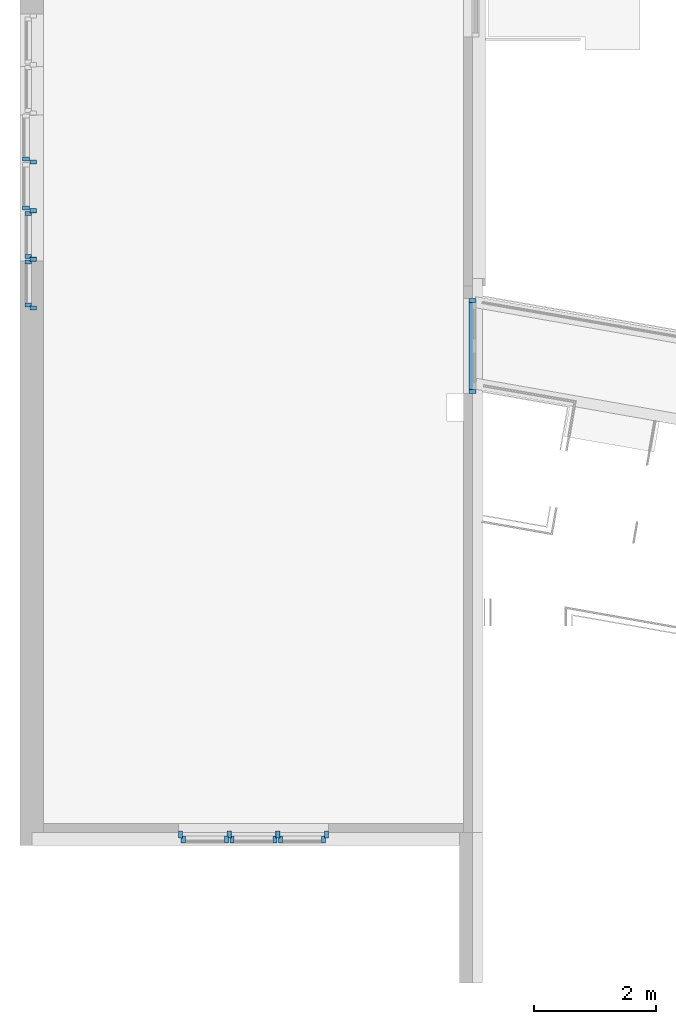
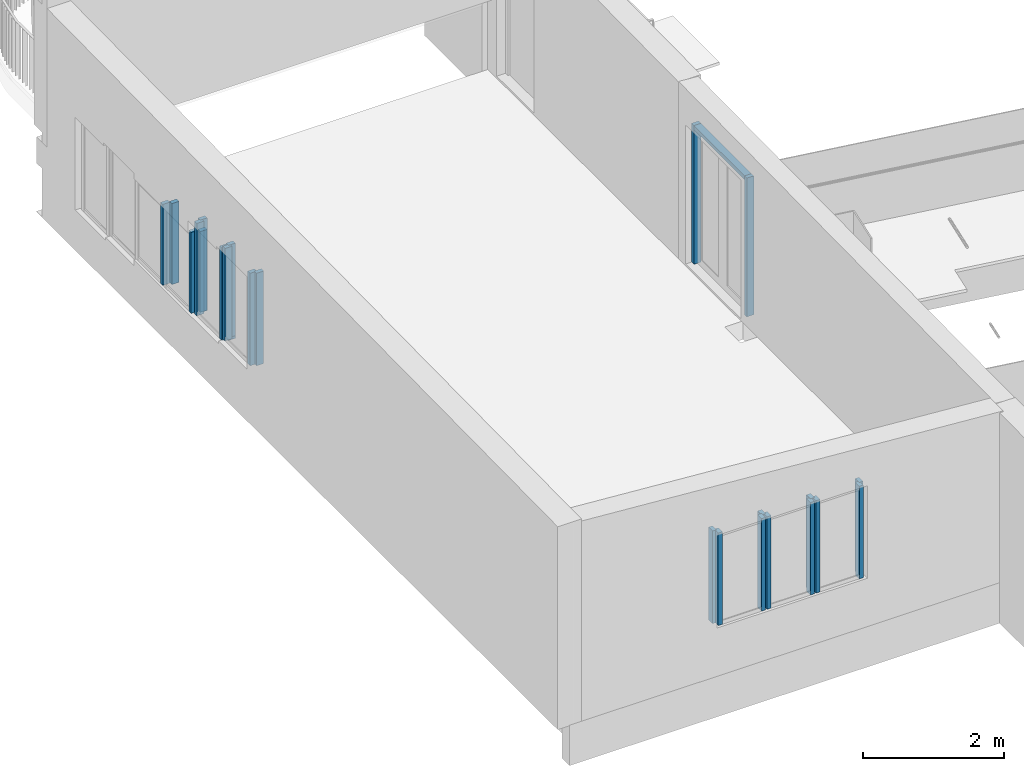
# One storey, part 1 of 10: 28 members, 15 elements without a shape of their own.
"""IFC2X3 building model written with IfcOpenShell, lengths in millimetres."""

from ifc_helpers import new_model, entity, si_unit, converted_unit, derived_unit, direction, frame, frame_2d, origin, origin_2d_with_axis, place, context, subcontext, project, spatial, polyline, rectangle, outline, extrude, source, transform, mapped, material, type_object, type_shapes, element, aggregate, save


model = new_model("IFC2X3")

# Units and contexts
model_context = context("Model", 3, precision=0.01, world=origin(), true_north=direction((6.12303176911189e-17, 1.0)))
body_context = subcontext(model_context, "Body", "Model", "MODEL_VIEW")
ifc_project = project(units=[si_unit("LENGTHUNIT", "METRE", prefix="MILLI"), si_unit("AREAUNIT", "SQUARE_METRE"), si_unit("VOLUMEUNIT", "CUBIC_METRE"), converted_unit("PLANEANGLEUNIT", "DEGREE", entity("IfcRatioMeasure", 0.0174532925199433), si_unit("PLANEANGLEUNIT", "RADIAN"), dimensions=[0, 0, 0, 0, 0, 0, 0]), si_unit("MASSUNIT", "GRAM", prefix="KILO"), derived_unit("MASSDENSITYUNIT", [(si_unit("MASSUNIT", "GRAM", prefix="KILO"), 1), (si_unit("LENGTHUNIT", "METRE"), -3)]), derived_unit("MOMENTOFINERTIAUNIT", [(si_unit("LENGTHUNIT", "METRE"), 4)]), si_unit("TIMEUNIT", "SECOND"), si_unit("FREQUENCYUNIT", "HERTZ"), si_unit("THERMODYNAMICTEMPERATUREUNIT", "DEGREE_CELSIUS"), derived_unit("THERMALTRANSMITTANCEUNIT", [(si_unit("MASSUNIT", "GRAM", prefix="KILO"), 1), (si_unit("THERMODYNAMICTEMPERATUREUNIT", "KELVIN"), -1), (si_unit("TIMEUNIT", "SECOND"), -3)]), derived_unit("VOLUMETRICFLOWRATEUNIT", [(si_unit("LENGTHUNIT", "METRE"), 3), (si_unit("TIMEUNIT", "SECOND"), -1)]), si_unit("ELECTRICCURRENTUNIT", "AMPERE"), si_unit("ELECTRICVOLTAGEUNIT", "VOLT"), si_unit("POWERUNIT", "WATT"), si_unit("FORCEUNIT", "NEWTON", prefix="KILO"), si_unit("ILLUMINANCEUNIT", "LUX"), si_unit("LUMINOUSFLUXUNIT", "LUMEN"), si_unit("LUMINOUSINTENSITYUNIT", "CANDELA"), derived_unit("USERDEFINED", [(si_unit("MASSUNIT", "GRAM", prefix="KILO"), -1), (si_unit("LENGTHUNIT", "METRE"), -2), (si_unit("TIMEUNIT", "SECOND"), 3), (si_unit("LUMINOUSFLUXUNIT", "LUMEN"), 1)]), derived_unit("LINEARVELOCITYUNIT", [(si_unit("LENGTHUNIT", "METRE"), 1), (si_unit("TIMEUNIT", "SECOND"), -1)]), si_unit("PRESSUREUNIT", "PASCAL"), derived_unit("USERDEFINED", [(si_unit("LENGTHUNIT", "METRE"), -2), (si_unit("MASSUNIT", "GRAM", prefix="KILO"), 1), (si_unit("TIMEUNIT", "SECOND"), -2)]), derived_unit("LINEARFORCEUNIT", [(si_unit("MASSUNIT", "GRAM", prefix="KILO"), 1), (si_unit("LENGTHUNIT", "METRE"), 1), (si_unit("TIMEUNIT", "SECOND"), -2), (si_unit("LENGTHUNIT", "METRE"), -1)]), derived_unit("PLANARFORCEUNIT", [(si_unit("MASSUNIT", "GRAM", prefix="KILO"), 1), (si_unit("LENGTHUNIT", "METRE"), 1), (si_unit("TIMEUNIT", "SECOND"), -2), (si_unit("LENGTHUNIT", "METRE"), -2)])], contexts=[model_context])

# Site, building, storey
site_placement = place(None, origin())
site = spatial("IfcSite", under=ifc_project, at=site_placement, Name="<Kadaster Gemeente>;<Kadaster nummer>;<Kadaster sectie>", CompositionType="ELEMENT")
building_placement = place(site_placement, origin())
building = spatial("IfcBuilding", under=site, at=building_placement, Name="JRCZ Middelburg", CompositionType="ELEMENT")
storey_placement = place(building_placement, frame((0.0, 0.0, 3700.0)))
storey = spatial("IfcBuildingStorey", under=building, at=storey_placement, Name="02 tweede verdieping", CompositionType="ELEMENT", Elevation=3700.0)

# Curtain wall, members
curtain_wall_type_1 = type_object("IfcCurtainWallType", Name="Curtain Wall:NLRS_32_CW_Ontwerpkozijn 067x114 binnen", PredefinedType="NOTDEFINED")
curtain_wall_1_placement = place(storey_placement, frame((0.0, 0.0, -3700.0)))
curtain_wall_1 = element("IfcCurtainWall", 1, at=curtain_wall_1_placement, inside=storey, type_object=curtain_wall_type_1, Name="Curtain Wall:NLRS_32_CW_Ontwerpkozijn 067x114 binnen", ObjectType="Curtain Wall:NLRS_32_CW_Ontwerpkozijn 067x114 binnen")
ifc_material_1 = material(Name="RBM_i2_binnenkozijn")
member_type_1 = type_object("IfcMemberType", Name="Rectangular Mullion:32_CWM_067x114", PredefinedType="MULLION", material=ifc_material_1)
shared_shape_1 = source(origin(), body_context, "Body", "SweptSolid", [
    extrude(rectangle(XDim=113.999999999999, YDim=67.0, at=origin_2d_with_axis()), frame((-33.5, 0.0, -2400.0), z_axis=(0.0, 0.0, 1.0), x_axis=(0.0, -1.0, 0.0)), (0.0, 0.0, 1.0), 2400.0),
])
type_shapes(member_type_1, [shared_shape_1])
member_1_placement = place(storey_placement, frame((17203.0, 17215.0893841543, 0.0), z_axis=(0.0, 0.0, -1.0), x_axis=(0.0, -1.0, 0.0)))
member_1 = element("IfcMember", 2, at=member_1_placement, type_object=member_type_1, material=ifc_material_1, Name="Rectangular Mullion:32_CWM_067x114", ObjectType="Rectangular Mullion:32_CWM_067x114", context=body_context, shape_type="MappedRepresentation", body=[
    mapped(shared_shape_1, transform((0.0, 0.0, 0.0), scale=1.0)),
])
member_type_2 = type_object("IfcMemberType", Name="Rectangular Mullion:32_CWM_067x114", PredefinedType="MULLION", material=ifc_material_1)
shared_shape_2 = source(origin(), body_context, "Body", "SweptSolid", [
    extrude(rectangle(XDim=113.999999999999, YDim=67.0, at=origin_2d_with_axis()), frame((-33.5, 0.0, -2400.0), z_axis=(0.0, 0.0, 1.0), x_axis=(0.0, -1.0, 0.0)), (0.0, 0.0, 1.0), 2400.0),
])
type_shapes(member_type_2, [shared_shape_2])
member_2_placement = place(storey_placement, frame((17203.0, 18782.0893841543, 2400.0), z_axis=(0.0, 0.0, 1.0), x_axis=(0.0, 1.0, 0.0)))
member_2 = element("IfcMember", 3, at=member_2_placement, type_object=member_type_2, material=ifc_material_1, Name="Rectangular Mullion:32_CWM_067x114", ObjectType="Rectangular Mullion:32_CWM_067x114", context=body_context, shape_type="MappedRepresentation", body=[
    mapped(shared_shape_2, transform((0.0, 0.0, 0.0), scale=1.0)),
])
member_type_3 = type_object("IfcMemberType", Name="Rectangular Mullion:32_CWM_067x114", PredefinedType="MULLION", material=ifc_material_1)
shared_shape_3 = source(origin(), body_context, "Body", "SweptSolid", [
    extrude(rectangle(XDim=113.999999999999, YDim=67.0, at=origin_2d_with_axis()), frame((-33.5, 0.0, -1433.0), z_axis=(0.0, 0.0, 1.0), x_axis=(0.0, -1.0, 0.0)), (0.0, 0.0, 1.0), 1433.0),
])
type_shapes(member_type_3, [shared_shape_3])
member_3_placement = place(storey_placement, frame((17203.0, 17282.0893841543, 2400.0), z_axis=(0.0, -1.0, 0.0), x_axis=(0.0, 0.0, 1.0)))
member_3 = element("IfcMember", 4, at=member_3_placement, type_object=member_type_3, material=ifc_material_1, Name="Rectangular Mullion:32_CWM_067x114", ObjectType="Rectangular Mullion:32_CWM_067x114", context=body_context, shape_type="MappedRepresentation", body=[
    mapped(shared_shape_3, transform((0.0, 0.0, 0.0), scale=1.0)),
])
aggregate(curtain_wall_1, [member_1, member_2, member_3])

# Curtain wall, member
curtain_wall_type_2 = type_object("IfcCurtainWallType", PredefinedType="NOTDEFINED")
curtain_wall_2_placement = place(storey_placement, frame((0.0, 0.0, -3700.0)))
curtain_wall_2 = element("IfcCurtainWall", 5, at=curtain_wall_2_placement, inside=storey, type_object=curtain_wall_type_2)
member_type_4 = type_object("IfcMemberType", Name="Rectangular Mullion:32_CWM_067x114", PredefinedType="MULLION", material=ifc_material_1)
shared_shape_4 = source(origin(), body_context, "Body", "SweptSolid", [
    extrude(rectangle(XDim=67.0000000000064, YDim=114.0, at=frame_2d((0.0, 1.08002495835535e-12), x_axis=(1.0, 0.0))), frame((9980.0, 21024.8639489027, 4500.0), z_axis=(0.0, 0.0, 1.0), x_axis=(0.0, -1.0, 0.0)), (0.0, 0.0, 1.0), 1400.0),
])
type_shapes(member_type_4, [shared_shape_4])
member_4_placement = place(storey_placement, frame((0.0, 0.0, -3700.0)))
member_4 = element("IfcMember", 6, at=member_4_placement, type_object=member_type_4, material=ifc_material_1, Name="Rectangular Mullion:32_CWM_067x114", ObjectType="Rectangular Mullion:32_CWM_067x114", context=body_context, shape_type="MappedRepresentation", body=[
    mapped(shared_shape_4, transform((0.0, 0.0, 0.0), scale=1.0)),
])
aggregate(curtain_wall_2, [member_4])

curtain_wall_type_3 = type_object("IfcCurtainWallType", Name="Curtain Wall:NLRS_31_CW_Ontwerpkozijn 067x114 2", PredefinedType="NOTDEFINED")
curtain_wall_3_placement = place(storey_placement, frame((0.0, 0.0, -3700.0)))
curtain_wall_3 = element("IfcCurtainWall", 7, at=curtain_wall_3_placement, inside=storey, type_object=curtain_wall_type_3, Name="Curtain Wall:NLRS_31_CW_Ontwerpkozijn 067x114 2", ObjectType="Curtain Wall:NLRS_31_CW_Ontwerpkozijn 067x114 2")
ifc_material_2 = material(Name="RBM_a_kozijn")
member_type_5 = type_object("IfcMemberType", Name="Rectangular Mullion:31_CWM_067x114", PredefinedType="MULLION", material=ifc_material_2)
shared_shape_5 = source(origin(), body_context, "Body", "SweptSolid", [
    extrude(rectangle(XDim=67.0000000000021, YDim=114.0, at=frame_2d((2.16360263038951e-12, -1.08002495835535e-12), x_axis=(1.0, 0.0))), frame((9858.0, 21068.8639489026, 4500.0), z_axis=(0.0, 0.0, 1.0), x_axis=(0.0, -1.0, 0.0)), (0.0, 0.0, 1.0), 1400.0),
])
type_shapes(member_type_5, [shared_shape_5])
member_5_placement = place(storey_placement, frame((0.0, 0.0, -3700.0)))
member_5 = element("IfcMember", 8, at=member_5_placement, type_object=member_type_5, material=ifc_material_2, Name="Rectangular Mullion:31_CWM_067x114", ObjectType="Rectangular Mullion:31_CWM_067x114", context=body_context, shape_type="MappedRepresentation", body=[
    mapped(shared_shape_5, transform((0.0, 0.0, 0.0), scale=1.0)),
])
aggregate(curtain_wall_3, [member_5])

# Curtain wall, members
curtain_wall_4_placement = place(storey_placement, frame((0.0, 0.0, -3700.0)))
curtain_wall_4 = element("IfcCurtainWall", 9, at=curtain_wall_4_placement, inside=storey, type_object=curtain_wall_type_2)
member_type_6 = type_object("IfcMemberType", Name="Rectangular Mullion:32_CWM_067x114", PredefinedType="MULLION", material=ifc_material_1)
shared_shape_6 = source(origin(), body_context, "Body", "SweptSolid", [
    extrude(rectangle(XDim=67.0000000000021, YDim=114.0, at=frame_2d((0.0, 1.08002495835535e-12), x_axis=(1.0, 0.0))), frame((9980.0, 21020.8639489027, 4500.0), z_axis=(0.0, 0.0, 1.0), x_axis=(0.0, -1.0, 0.0)), (0.0, 0.0, 1.0), 1400.0),
])
type_shapes(member_type_6, [shared_shape_6])
member_6_placement = place(storey_placement, frame((0.0, 0.0, -3700.0)))
member_6 = element("IfcMember", 10, at=member_6_placement, type_object=member_type_6, material=ifc_material_1, Name="Rectangular Mullion:32_CWM_067x114", ObjectType="Rectangular Mullion:32_CWM_067x114", context=body_context, shape_type="MappedRepresentation", body=[
    mapped(shared_shape_6, transform((0.0, 0.0, 0.0), scale=1.0)),
])
member_type_7 = type_object("IfcMemberType", Name="Rectangular Mullion:32_CWM_067x114", PredefinedType="MULLION", material=ifc_material_1)
shared_shape_7 = source(origin(), body_context, "Body", "SweptSolid", [
    extrude(rectangle(XDim=67.0000000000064, YDim=114.0, at=frame_2d((0.0, 1.08002495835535e-12), x_axis=(1.0, 0.0))), frame((9980.0, 20224.8639489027, 4500.0), z_axis=(0.0, 0.0, 1.0), x_axis=(0.0, -1.0, 0.0)), (0.0, 0.0, 1.0), 1400.0),
])
type_shapes(member_type_7, [shared_shape_7])
member_7_placement = place(storey_placement, frame((0.0, 0.0, -3700.0)))
member_7 = element("IfcMember", 11, at=member_7_placement, type_object=member_type_7, material=ifc_material_1, Name="Rectangular Mullion:32_CWM_067x114", ObjectType="Rectangular Mullion:32_CWM_067x114", context=body_context, shape_type="MappedRepresentation", body=[
    mapped(shared_shape_7, transform((0.0, 0.0, 0.0), scale=1.0)),
])
aggregate(curtain_wall_4, [member_6, member_7])

# Curtain wall, member
curtain_wall_5_placement = place(storey_placement, frame((0.0, 0.0, -3700.0)))
curtain_wall_5 = element("IfcCurtainWall", 12, at=curtain_wall_5_placement, inside=storey, type_object=curtain_wall_type_3, Name="Curtain Wall:NLRS_31_CW_Ontwerpkozijn 067x114 2", ObjectType="Curtain Wall:NLRS_31_CW_Ontwerpkozijn 067x114 2")
member_type_8 = type_object("IfcMemberType", Name="Rectangular Mullion:31_CWM_067x114", PredefinedType="MULLION", material=ifc_material_2)
shared_shape_8 = source(origin(), body_context, "Body", "SweptSolid", [
    extrude(rectangle(XDim=67.0000000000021, YDim=114.0, at=frame_2d((2.16360263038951e-12, -1.08002495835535e-12), x_axis=(1.0, 0.0))), frame((9858.0, 20268.8639489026, 4500.0), z_axis=(0.0, 0.0, 1.0), x_axis=(0.0, -1.0, 0.0)), (0.0, 0.0, 1.0), 1400.0),
])
type_shapes(member_type_8, [shared_shape_8])
member_8_placement = place(storey_placement, frame((0.0, 0.0, -3700.0)))
member_8 = element("IfcMember", 13, at=member_8_placement, type_object=member_type_8, material=ifc_material_2, Name="Rectangular Mullion:31_CWM_067x114", ObjectType="Rectangular Mullion:31_CWM_067x114", context=body_context, shape_type="MappedRepresentation", body=[
    mapped(shared_shape_8, transform((0.0, 0.0, 0.0), scale=1.0)),
])
aggregate(curtain_wall_5, [member_8])

# Curtain wall, members
curtain_wall_6_placement = place(storey_placement, frame((0.0, 0.0, -3700.0)))
curtain_wall_6 = element("IfcCurtainWall", 14, at=curtain_wall_6_placement, inside=storey, type_object=curtain_wall_type_2)
member_type_9 = type_object("IfcMemberType", Name="Rectangular Mullion:32_CWM_067x114", PredefinedType="MULLION", material=ifc_material_1)
shared_shape_9 = source(origin(), body_context, "Body", "SweptSolid", [
    extrude(rectangle(XDim=67.0000000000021, YDim=114.0, at=origin_2d_with_axis()), frame((9980.0, 20220.8639489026, 4500.0), z_axis=(0.0, 0.0, 1.0), x_axis=(0.0, -1.0, 0.0)), (0.0, 0.0, 1.0), 1600.0),
])
type_shapes(member_type_9, [shared_shape_9])
member_9_placement = place(storey_placement, frame((0.0, 0.0, -3700.0)))
member_9 = element("IfcMember", 15, at=member_9_placement, type_object=member_type_9, material=ifc_material_1, Name="Rectangular Mullion:32_CWM_067x114", ObjectType="Rectangular Mullion:32_CWM_067x114", context=body_context, shape_type="MappedRepresentation", body=[
    mapped(shared_shape_9, transform((0.0, 0.0, 0.0), scale=1.0)),
])
member_type_10 = type_object("IfcMemberType", Name="Rectangular Mullion:32_CWM_067x114", PredefinedType="MULLION", material=ifc_material_1)
shared_shape_10 = source(origin(), body_context, "Body", "SweptSolid", [
    extrude(rectangle(XDim=67.0000000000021, YDim=114.0, at=frame_2d((-1.08357767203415e-12, 0.0), x_axis=(1.0, 0.0))), frame((9980.0, 19424.8639489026, 4500.0), z_axis=(0.0, 0.0, 1.0), x_axis=(0.0, -1.0, 0.0)), (0.0, 0.0, 1.0), 1600.0),
])
type_shapes(member_type_10, [shared_shape_10])
member_10_placement = place(storey_placement, frame((0.0, 0.0, -3700.0)))
member_10 = element("IfcMember", 16, at=member_10_placement, type_object=member_type_10, material=ifc_material_1, Name="Rectangular Mullion:32_CWM_067x114", ObjectType="Rectangular Mullion:32_CWM_067x114", context=body_context, shape_type="MappedRepresentation", body=[
    mapped(shared_shape_10, transform((0.0, 0.0, 0.0), scale=1.0)),
])
aggregate(curtain_wall_6, [member_9, member_10])

curtain_wall_7_placement = place(storey_placement, frame((0.0, 0.0, -3700.0)))
curtain_wall_7 = element("IfcCurtainWall", 17, at=curtain_wall_7_placement, inside=storey, type_object=curtain_wall_type_3, Name="Curtain Wall:NLRS_31_CW_Ontwerpkozijn 067x114 2", ObjectType="Curtain Wall:NLRS_31_CW_Ontwerpkozijn 067x114 2")
member_type_11 = type_object("IfcMemberType", Name="Rectangular Mullion:31_CWM_067x114", PredefinedType="MULLION", material=ifc_material_2)
shared_shape_11 = source(origin(), body_context, "Body", "SweptSolid", [
    extrude(outline(polyline([(-37.0, -65.3333333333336), (30.0, -65.3333333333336), (30.0, 16.666666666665), (7.0, 16.666666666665), (7.0, 48.6666666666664), (-37.0, 48.6666666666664), (-37.0, -65.3333333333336)])), frame((9906.33333333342, 19465.3639489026, 4500.0), z_axis=(0.0, 0.0, 1.0), x_axis=(0.0, -1.0, 0.0)), (0.0, 0.0, 1.0), 1600.0),
])
type_shapes(member_type_11, [shared_shape_11])
member_11_placement = place(storey_placement, frame((0.0, 0.0, -3700.0)))
member_11 = element("IfcMember", 18, at=member_11_placement, type_object=member_type_11, material=ifc_material_2, Name="Rectangular Mullion:31_CWM_067x114", ObjectType="Rectangular Mullion:31_CWM_067x114", context=body_context, shape_type="MappedRepresentation", body=[
    mapped(shared_shape_11, transform((0.0, 0.0, 0.0), scale=1.0)),
])
member_type_12 = type_object("IfcMemberType", Name="Rectangular Mullion:31_CWM_067x114", PredefinedType="MULLION", material=ifc_material_2)
shared_shape_12 = source(origin(), body_context, "Body", "SweptSolid", [
    extrude(outline(polyline([(-30.0, -65.3333333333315), (37.0, -65.3333333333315), (37.0, 48.6666666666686), (-7.0, 48.6666666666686), (-7.0, 16.6666666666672), (-30.0, 16.6666666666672), (-30.0, -65.3333333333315)])), frame((9906.33333333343, 20180.3639489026, 4500.0), z_axis=(0.0, 0.0, 1.0), x_axis=(0.0, -1.0, 0.0)), (0.0, 0.0, 1.0), 1600.0),
])
type_shapes(member_type_12, [shared_shape_12])
member_12_placement = place(storey_placement, frame((0.0, 0.0, -3700.0)))
member_12 = element("IfcMember", 19, at=member_12_placement, type_object=member_type_12, material=ifc_material_2, Name="Rectangular Mullion:31_CWM_067x114", ObjectType="Rectangular Mullion:31_CWM_067x114", context=body_context, shape_type="MappedRepresentation", body=[
    mapped(shared_shape_12, transform((0.0, 0.0, 0.0), scale=1.0)),
])
aggregate(curtain_wall_7, [member_11, member_12])

curtain_wall_8_placement = place(storey_placement, frame((0.0, 0.0, -3700.0)))
curtain_wall_8 = element("IfcCurtainWall", 20, at=curtain_wall_8_placement, inside=storey, type_object=curtain_wall_type_2)
member_type_13 = type_object("IfcMemberType", Name="Rectangular Mullion:32_CWM_067x114", PredefinedType="MULLION", material=ifc_material_1)
shared_shape_13 = source(origin(), body_context, "Body", "SweptSolid", [
    extrude(rectangle(XDim=66.9999999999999, YDim=114.0, at=frame_2d((-1.08002495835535e-12, 0.0), x_axis=(1.0, 0.0))), frame((9980.0, 19420.8639489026, 4550.0), z_axis=(0.0, 0.0, 1.0), x_axis=(0.0, -1.0, 0.0)), (0.0, 0.0, 1.0), 1600.0),
])
type_shapes(member_type_13, [shared_shape_13])
member_13_placement = place(storey_placement, frame((0.0, 0.0, -3700.0)))
member_13 = element("IfcMember", 21, at=member_13_placement, type_object=member_type_13, material=ifc_material_1, Name="Rectangular Mullion:32_CWM_067x114", ObjectType="Rectangular Mullion:32_CWM_067x114", context=body_context, shape_type="MappedRepresentation", body=[
    mapped(shared_shape_13, transform((0.0, 0.0, 0.0), scale=1.0)),
])
member_type_14 = type_object("IfcMemberType", Name="Rectangular Mullion:32_CWM_067x114", PredefinedType="MULLION", material=ifc_material_1)
shared_shape_14 = source(origin(), body_context, "Body", "SweptSolid", [
    extrude(rectangle(XDim=67.0000000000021, YDim=114.0, at=frame_2d((-1.08357767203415e-12, 0.0), x_axis=(1.0, 0.0))), frame((9980.0, 18624.8639489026, 4550.0), z_axis=(0.0, 0.0, 1.0), x_axis=(0.0, -1.0, 0.0)), (0.0, 0.0, 1.0), 1600.0),
])
type_shapes(member_type_14, [shared_shape_14])
member_14_placement = place(storey_placement, frame((0.0, 0.0, -3700.0)))
member_14 = element("IfcMember", 22, at=member_14_placement, type_object=member_type_14, material=ifc_material_1, Name="Rectangular Mullion:32_CWM_067x114", ObjectType="Rectangular Mullion:32_CWM_067x114", context=body_context, shape_type="MappedRepresentation", body=[
    mapped(shared_shape_14, transform((0.0, 0.0, 0.0), scale=1.0)),
])
aggregate(curtain_wall_8, [member_13, member_14])

curtain_wall_9_placement = place(storey_placement, frame((0.0, 0.0, -3700.0)))
curtain_wall_9 = element("IfcCurtainWall", 23, at=curtain_wall_9_placement, inside=storey, type_object=curtain_wall_type_3, Name="Curtain Wall:NLRS_31_CW_Ontwerpkozijn 067x114 2", ObjectType="Curtain Wall:NLRS_31_CW_Ontwerpkozijn 067x114 2")
member_type_15 = type_object("IfcMemberType", Name="Rectangular Mullion:31_CWM_067x114", PredefinedType="MULLION", material=ifc_material_2)
shared_shape_15 = source(origin(), body_context, "Body", "SweptSolid", [
    extrude(outline(polyline([(-37.0, -65.333333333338), (30.0, -65.333333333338), (30.0, 16.666666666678), (7.0, 16.666666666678), (7.0, 48.6666666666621), (-37.0, 48.6666666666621), (-37.0, -65.333333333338)])), frame((9906.33333333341, 18665.3639489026, 4550.0), z_axis=(0.0, 0.0, 1.0), x_axis=(0.0, -1.0, 0.0)), (0.0, 0.0, 1.0), 1600.0),
])
type_shapes(member_type_15, [shared_shape_15])
member_15_placement = place(storey_placement, frame((0.0, 0.0, -3700.0)))
member_15 = element("IfcMember", 24, at=member_15_placement, type_object=member_type_15, material=ifc_material_2, Name="Rectangular Mullion:31_CWM_067x114", ObjectType="Rectangular Mullion:31_CWM_067x114", context=body_context, shape_type="MappedRepresentation", body=[
    mapped(shared_shape_15, transform((0.0, 0.0, 0.0), scale=1.0)),
])
member_type_16 = type_object("IfcMemberType", Name="Rectangular Mullion:31_CWM_067x114", PredefinedType="MULLION", material=ifc_material_2)
shared_shape_16 = source(origin(), body_context, "Body", "SweptSolid", [
    extrude(outline(polyline([(-30.0, -65.333333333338), (37.0, -65.333333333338), (37.0, 48.6666666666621), (-7.0, 48.6666666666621), (-7.0, 16.666666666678), (-30.0, 16.666666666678), (-30.0, -65.333333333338)])), frame((9906.33333333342, 19380.3639489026, 4550.0), z_axis=(0.0, 0.0, 1.0), x_axis=(0.0, -1.0, 0.0)), (0.0, 0.0, 1.0), 1600.0),
])
type_shapes(member_type_16, [shared_shape_16])
member_16_placement = place(storey_placement, frame((0.0, 0.0, -3700.0)))
member_16 = element("IfcMember", 25, at=member_16_placement, type_object=member_type_16, material=ifc_material_2, Name="Rectangular Mullion:31_CWM_067x114", ObjectType="Rectangular Mullion:31_CWM_067x114", context=body_context, shape_type="MappedRepresentation", body=[
    mapped(shared_shape_16, transform((0.0, 0.0, 0.0), scale=1.0)),
])
aggregate(curtain_wall_9, [member_15, member_16])

curtain_wall_10_placement = place(storey_placement, frame((0.0, 0.0, -3700.0)))
curtain_wall_10 = element("IfcCurtainWall", 26, at=curtain_wall_10_placement, inside=storey, type_object=curtain_wall_type_2)
member_type_17 = type_object("IfcMemberType", Name="Rectangular Mullion:32_CWM_067x114", PredefinedType="MULLION", material=ifc_material_1)
shared_shape_17 = source(origin(), body_context, "Body", "SweptSolid", [
    extrude(rectangle(XDim=114.0, YDim=66.9999999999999, at=frame_2d((0.0, 1.08002495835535e-12), x_axis=(1.0, 0.0))), frame((14002.0, 9967.0, 4500.0), z_axis=(0.0, 0.0, 1.0), x_axis=(0.0, -1.0, 0.0)), (0.0, 0.0, 1.0), 1600.0),
])
type_shapes(member_type_17, [shared_shape_17])
member_17_placement = place(storey_placement, frame((0.0, 0.0, -3700.0)))
member_17 = element("IfcMember", 27, at=member_17_placement, type_object=member_type_17, material=ifc_material_1, Name="Rectangular Mullion:32_CWM_067x114", ObjectType="Rectangular Mullion:32_CWM_067x114", context=body_context, shape_type="MappedRepresentation", body=[
    mapped(shared_shape_17, transform((0.0, 0.0, 0.0), scale=1.0)),
])
member_type_18 = type_object("IfcMemberType", Name="Rectangular Mullion:32_CWM_067x114", PredefinedType="MULLION", material=ifc_material_1)
shared_shape_18 = source(origin(), body_context, "Body", "SweptSolid", [
    extrude(rectangle(XDim=114.0, YDim=66.9999999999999, at=frame_2d((0.0, 1.08002495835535e-12), x_axis=(1.0, 0.0))), frame((14798.0, 9967.0, 4500.0), z_axis=(0.0, 0.0, 1.0), x_axis=(0.0, -1.0, 0.0)), (0.0, 0.0, 1.0), 1600.0),
])
type_shapes(member_type_18, [shared_shape_18])
member_18_placement = place(storey_placement, frame((0.0, 0.0, -3700.0)))
member_18 = element("IfcMember", 28, at=member_18_placement, type_object=member_type_18, material=ifc_material_1, Name="Rectangular Mullion:32_CWM_067x114", ObjectType="Rectangular Mullion:32_CWM_067x114", context=body_context, shape_type="MappedRepresentation", body=[
    mapped(shared_shape_18, transform((0.0, 0.0, 0.0), scale=1.0)),
])
aggregate(curtain_wall_10, [member_17, member_18])

curtain_wall_11_placement = place(storey_placement, frame((0.0, 0.0, -3700.0)))
curtain_wall_11 = element("IfcCurtainWall", 29, at=curtain_wall_11_placement, inside=storey, type_object=curtain_wall_type_3, Name="Curtain Wall:NLRS_31_CW_Ontwerpkozijn 067x114 2", ObjectType="Curtain Wall:NLRS_31_CW_Ontwerpkozijn 067x114 2")
member_type_19 = type_object("IfcMemberType", Name="Rectangular Mullion:31_CWM_067x114", PredefinedType="MULLION", material=ifc_material_2)
shared_shape_19 = source(origin(), body_context, "Body", "SweptSolid", [
    extrude(outline(polyline([(-48.6666666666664, -37.0), (65.3333333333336, -37.0), (65.3333333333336, 30.0), (-16.6666666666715, 30.0), (-16.6666666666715, 7.0), (-48.6666666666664, 7.0), (-48.6666666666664, -37.0)])), frame((14757.5000000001, 9893.33333333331, 4500.0), z_axis=(0.0, 0.0, 1.0), x_axis=(0.0, -1.0, 0.0)), (0.0, 0.0, 1.0), 1600.0),
])
type_shapes(member_type_19, [shared_shape_19])
member_19_placement = place(storey_placement, frame((0.0, 0.0, -3700.0)))
member_19 = element("IfcMember", 30, at=member_19_placement, type_object=member_type_19, material=ifc_material_2, Name="Rectangular Mullion:31_CWM_067x114", ObjectType="Rectangular Mullion:31_CWM_067x114", context=body_context, shape_type="MappedRepresentation", body=[
    mapped(shared_shape_19, transform((0.0, 0.0, 0.0), scale=1.0)),
])
member_type_20 = type_object("IfcMemberType", Name="Rectangular Mullion:31_CWM_067x114", PredefinedType="MULLION", material=ifc_material_2)
shared_shape_20 = source(origin(), body_context, "Body", "SweptSolid", [
    extrude(outline(polyline([(-16.6666666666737, -30.0), (65.3333333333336, -30.0), (65.3333333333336, 37.0), (-48.6666666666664, 37.0), (-48.6666666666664, -7.0), (-16.6666666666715, -7.0), (-16.6666666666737, -30.0)])), frame((14042.5000000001, 9893.33333333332, 4500.0), z_axis=(0.0, 0.0, 1.0), x_axis=(0.0, -1.0, 0.0)), (0.0, 0.0, 1.0), 1600.0),
])
type_shapes(member_type_20, [shared_shape_20])
member_20_placement = place(storey_placement, frame((0.0, 0.0, -3700.0)))
member_20 = element("IfcMember", 31, at=member_20_placement, type_object=member_type_20, material=ifc_material_2, Name="Rectangular Mullion:31_CWM_067x114", ObjectType="Rectangular Mullion:31_CWM_067x114", context=body_context, shape_type="MappedRepresentation", body=[
    mapped(shared_shape_20, transform((0.0, 0.0, 0.0), scale=1.0)),
])
aggregate(curtain_wall_11, [member_19, member_20])

curtain_wall_12_placement = place(storey_placement, frame((0.0, 0.0, -3700.0)))
curtain_wall_12 = element("IfcCurtainWall", 32, at=curtain_wall_12_placement, inside=storey, type_object=curtain_wall_type_2)
member_type_21 = type_object("IfcMemberType", Name="Rectangular Mullion:32_CWM_067x114", PredefinedType="MULLION", material=ifc_material_1)
shared_shape_21 = source(origin(), body_context, "Body", "SweptSolid", [
    extrude(rectangle(XDim=114.0, YDim=66.9999999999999, at=frame_2d((0.0, 1.08002495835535e-12), x_axis=(1.0, 0.0))), frame((13202.0, 9967.0, 4500.0), z_axis=(0.0, 0.0, 1.0), x_axis=(0.0, -1.0, 0.0)), (0.0, 0.0, 1.0), 1600.0),
])
type_shapes(member_type_21, [shared_shape_21])
member_21_placement = place(storey_placement, frame((0.0, 0.0, -3700.0)))
member_21 = element("IfcMember", 33, at=member_21_placement, type_object=member_type_21, material=ifc_material_1, Name="Rectangular Mullion:32_CWM_067x114", ObjectType="Rectangular Mullion:32_CWM_067x114", context=body_context, shape_type="MappedRepresentation", body=[
    mapped(shared_shape_21, transform((0.0, 0.0, 0.0), scale=1.0)),
])
member_type_22 = type_object("IfcMemberType", Name="Rectangular Mullion:32_CWM_067x114", PredefinedType="MULLION", material=ifc_material_1)
shared_shape_22 = source(origin(), body_context, "Body", "SweptSolid", [
    extrude(rectangle(XDim=114.0, YDim=66.9999999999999, at=frame_2d((0.0, 1.08002495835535e-12), x_axis=(1.0, 0.0))), frame((13998.0, 9967.0, 4500.0), z_axis=(0.0, 0.0, 1.0), x_axis=(0.0, -1.0, 0.0)), (0.0, 0.0, 1.0), 1600.0),
])
type_shapes(member_type_22, [shared_shape_22])
member_22_placement = place(storey_placement, frame((0.0, 0.0, -3700.0)))
member_22 = element("IfcMember", 34, at=member_22_placement, type_object=member_type_22, material=ifc_material_1, Name="Rectangular Mullion:32_CWM_067x114", ObjectType="Rectangular Mullion:32_CWM_067x114", context=body_context, shape_type="MappedRepresentation", body=[
    mapped(shared_shape_22, transform((0.0, 0.0, 0.0), scale=1.0)),
])
aggregate(curtain_wall_12, [member_21, member_22])

curtain_wall_13_placement = place(storey_placement, frame((0.0, 0.0, -3700.0)))
curtain_wall_13 = element("IfcCurtainWall", 35, at=curtain_wall_13_placement, inside=storey, type_object=curtain_wall_type_3, Name="Curtain Wall:NLRS_31_CW_Ontwerpkozijn 067x114 2", ObjectType="Curtain Wall:NLRS_31_CW_Ontwerpkozijn 067x114 2")
member_type_23 = type_object("IfcMemberType", Name="Rectangular Mullion:31_CWM_067x114", PredefinedType="MULLION", material=ifc_material_2)
shared_shape_23 = source(origin(), body_context, "Body", "SweptSolid", [
    extrude(outline(polyline([(-48.6666666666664, -37.0), (65.3333333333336, -37.0), (65.3333333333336, 30.0), (-16.6666666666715, 30.0), (-16.6666666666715, 7.0), (-48.6666666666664, 7.0), (-48.6666666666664, -37.0)])), frame((13957.5000000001, 9893.33333333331, 4500.0), z_axis=(0.0, 0.0, 1.0), x_axis=(0.0, -1.0, 0.0)), (0.0, 0.0, 1.0), 1600.0),
])
type_shapes(member_type_23, [shared_shape_23])
member_23_placement = place(storey_placement, frame((0.0, 0.0, -3700.0)))
member_23 = element("IfcMember", 36, at=member_23_placement, type_object=member_type_23, material=ifc_material_2, Name="Rectangular Mullion:31_CWM_067x114", ObjectType="Rectangular Mullion:31_CWM_067x114", context=body_context, shape_type="MappedRepresentation", body=[
    mapped(shared_shape_23, transform((0.0, 0.0, 0.0), scale=1.0)),
])
member_type_24 = type_object("IfcMemberType", Name="Rectangular Mullion:31_CWM_067x114", PredefinedType="MULLION", material=ifc_material_2)
shared_shape_24 = source(origin(), body_context, "Body", "SweptSolid", [
    extrude(outline(polyline([(-16.6666666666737, -30.0), (65.3333333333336, -30.0), (65.3333333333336, 37.0), (-48.6666666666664, 37.0), (-48.6666666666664, -7.0), (-16.6666666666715, -7.0), (-16.6666666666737, -30.0)])), frame((13242.5000000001, 9893.33333333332, 4500.0), z_axis=(0.0, 0.0, 1.0), x_axis=(0.0, -1.0, 0.0)), (0.0, 0.0, 1.0), 1600.0),
])
type_shapes(member_type_24, [shared_shape_24])
member_24_placement = place(storey_placement, frame((0.0, 0.0, -3700.0)))
member_24 = element("IfcMember", 37, at=member_24_placement, type_object=member_type_24, material=ifc_material_2, Name="Rectangular Mullion:31_CWM_067x114", ObjectType="Rectangular Mullion:31_CWM_067x114", context=body_context, shape_type="MappedRepresentation", body=[
    mapped(shared_shape_24, transform((0.0, 0.0, 0.0), scale=1.0)),
])
aggregate(curtain_wall_13, [member_23, member_24])

curtain_wall_14_placement = place(storey_placement, frame((0.0, 0.0, -3700.0)))
curtain_wall_14 = element("IfcCurtainWall", 38, at=curtain_wall_14_placement, inside=storey, type_object=curtain_wall_type_2)
member_type_25 = type_object("IfcMemberType", Name="Rectangular Mullion:32_CWM_067x114", PredefinedType="MULLION", material=ifc_material_1)
shared_shape_25 = source(origin(), body_context, "Body", "SweptSolid", [
    extrude(rectangle(XDim=114.0, YDim=66.9999999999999, at=frame_2d((0.0, 1.08002495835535e-12), x_axis=(1.0, 0.0))), frame((12402.0, 9967.0, 4500.0), z_axis=(0.0, 0.0, 1.0), x_axis=(0.0, -1.0, 0.0)), (0.0, 0.0, 1.0), 1600.0),
])
type_shapes(member_type_25, [shared_shape_25])
member_25_placement = place(storey_placement, frame((0.0, 0.0, -3700.0)))
member_25 = element("IfcMember", 39, at=member_25_placement, type_object=member_type_25, material=ifc_material_1, Name="Rectangular Mullion:32_CWM_067x114", ObjectType="Rectangular Mullion:32_CWM_067x114", context=body_context, shape_type="MappedRepresentation", body=[
    mapped(shared_shape_25, transform((0.0, 0.0, 0.0), scale=1.0)),
])
member_type_26 = type_object("IfcMemberType", Name="Rectangular Mullion:32_CWM_067x114", PredefinedType="MULLION", material=ifc_material_1)
shared_shape_26 = source(origin(), body_context, "Body", "SweptSolid", [
    extrude(rectangle(XDim=114.0, YDim=66.9999999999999, at=frame_2d((0.0, 1.08002495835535e-12), x_axis=(1.0, 0.0))), frame((13198.0, 9967.0, 4500.0), z_axis=(0.0, 0.0, 1.0), x_axis=(0.0, -1.0, 0.0)), (0.0, 0.0, 1.0), 1600.0),
])
type_shapes(member_type_26, [shared_shape_26])
member_26_placement = place(storey_placement, frame((0.0, 0.0, -3700.0)))
member_26 = element("IfcMember", 40, at=member_26_placement, type_object=member_type_26, material=ifc_material_1, Name="Rectangular Mullion:32_CWM_067x114", ObjectType="Rectangular Mullion:32_CWM_067x114", context=body_context, shape_type="MappedRepresentation", body=[
    mapped(shared_shape_26, transform((0.0, 0.0, 0.0), scale=1.0)),
])
aggregate(curtain_wall_14, [member_25, member_26])

curtain_wall_15_placement = place(storey_placement, frame((0.0, 0.0, -3700.0)))
curtain_wall_15 = element("IfcCurtainWall", 41, at=curtain_wall_15_placement, inside=storey, type_object=curtain_wall_type_3, Name="Curtain Wall:NLRS_31_CW_Ontwerpkozijn 067x114 2", ObjectType="Curtain Wall:NLRS_31_CW_Ontwerpkozijn 067x114 2")
member_type_27 = type_object("IfcMemberType", Name="Rectangular Mullion:31_CWM_067x114", PredefinedType="MULLION", material=ifc_material_2)
shared_shape_27 = source(origin(), body_context, "Body", "SweptSolid", [
    extrude(rectangle(XDim=114.0, YDim=66.9999999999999, at=frame_2d((0.0, 1.08002495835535e-12), x_axis=(1.0, 0.0))), frame((13154.0, 9885.0, 4500.0), z_axis=(0.0, 0.0, 1.0), x_axis=(0.0, -1.0, 0.0)), (0.0, 0.0, 1.0), 1600.0),
])
type_shapes(member_type_27, [shared_shape_27])
member_27_placement = place(storey_placement, frame((0.0, 0.0, -3700.0)))
member_27 = element("IfcMember", 42, at=member_27_placement, type_object=member_type_27, material=ifc_material_2, Name="Rectangular Mullion:31_CWM_067x114", ObjectType="Rectangular Mullion:31_CWM_067x114", context=body_context, shape_type="MappedRepresentation", body=[
    mapped(shared_shape_27, transform((0.0, 0.0, 0.0), scale=1.0)),
])
member_type_28 = type_object("IfcMemberType", Name="Rectangular Mullion:31_CWM_067x114", PredefinedType="MULLION", material=ifc_material_2)
shared_shape_28 = source(origin(), body_context, "Body", "SweptSolid", [
    extrude(rectangle(XDim=114.0, YDim=66.9999999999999, at=frame_2d((0.0, 1.08002495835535e-12), x_axis=(1.0, 0.0))), frame((12446.0, 9885.0, 4500.0), z_axis=(0.0, 0.0, 1.0), x_axis=(0.0, -1.0, 0.0)), (0.0, 0.0, 1.0), 1600.0),
])
type_shapes(member_type_28, [shared_shape_28])
member_28_placement = place(storey_placement, frame((0.0, 0.0, -3700.0)))
member_28 = element("IfcMember", 43, at=member_28_placement, type_object=member_type_28, material=ifc_material_2, Name="Rectangular Mullion:31_CWM_067x114", ObjectType="Rectangular Mullion:31_CWM_067x114", context=body_context, shape_type="MappedRepresentation", body=[
    mapped(shared_shape_28, transform((0.0, 0.0, 0.0), scale=1.0)),
])
aggregate(curtain_wall_15, [member_27, member_28])

save(model, "model.ifc")
